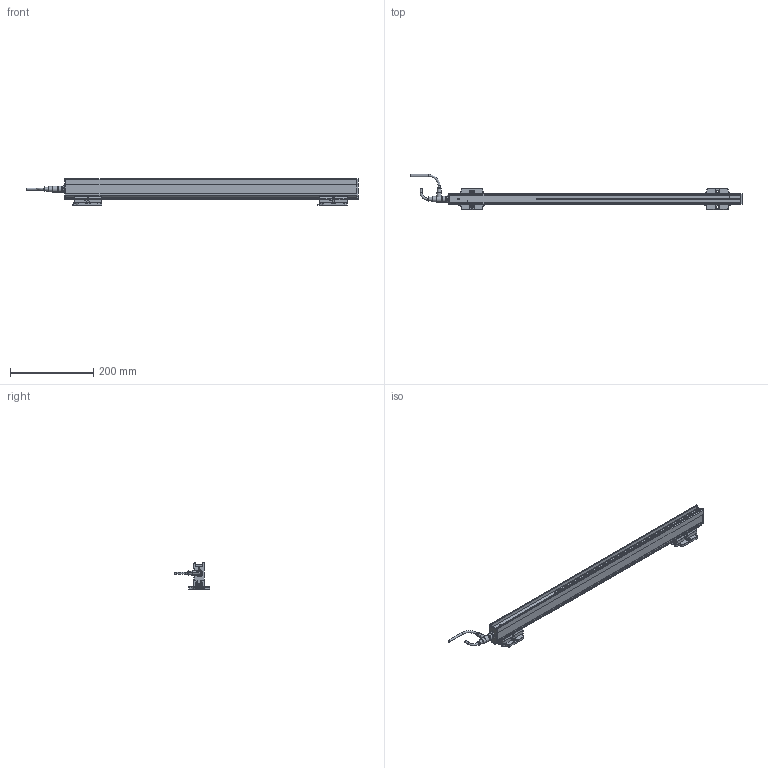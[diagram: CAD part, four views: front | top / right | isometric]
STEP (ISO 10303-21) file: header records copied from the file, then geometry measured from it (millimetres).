
FILE_DESCRIPTION(('Bauteilbeschreibung','HiCAD-Model','HiCAD-STEP-TRANSLATION','Bauteilbeschreibung'),'2;1');
FILE_NAME('PERFORMAXIQEASY_630-720_3D.STP','2014-03-05T11:25:40+00:00',('Konstrukteur'),('Konstrukteur Firma GmbH'),' HiCAD 2011, Step 1600.0 ','HiCAD 2011','confidential');
FILE_SCHEMA(('AUTOMOTIVE_DESIGN { 1 2 10303 214 0 1 1 1 }'));
Products named in the file (38): PERFORMAXIQEASY_630_720_3D; A_PERFORMAX IQ EASY 630_720; A_PERFORMAX IQ EASY SPEED; A_CAP DE; A_CAP CE_5; GROUP; PIN; GROUP0; PIN0; LED_2C_3MM; LED02C03MM; A519020315_CONNECTOR APPLIANCE; A_INSERT; A_CONTACTS; A_HOUSING; A_PROFILE; A_POTTING; A532000100_BRACKET BARS_ MOUNT; A_SIDE PIECE; A0SIDE0PIECE; A_BRACKET SMALL; A_SLIDE PIECE; A5320001000BRACKET0BARS00MOUNT; A0SIDE0PIECE0; A0SIDE0PIECE1; A0BRACKET0SMALL; A0SLIDE0PIECE; A_CONNECTOR STRAIGHT; EXTRUDED SOLID_0; DRAAD GEBOGEN; REVOLVED SOLID_1; REVOLVED SOLID_3; A_CONNECTOR ANGLED; REVOLVED0SOLID01; EXTRUDED0SOLID00; C_EDGE SWEEP_0; REVOLVED SOLID_2; REVOLVED0SOLID03
Assembly tree (37 placements, depth 5):
  PERFORMAXIQEASY_630_720_3D
    A_PERFORMAX IQ EASY 630_720
      A_PERFORMAX IQ EASY SPEED
        A_CAP DE
        A_CAP CE_5
        GROUP
          PIN
        GROUP0
          PIN0
        LED_2C_3MM
        LED02C03MM
        A519020315_CONNECTOR APPLIANCE
          A_INSERT
          A_CONTACTS
          A_HOUSING
        A_PROFILE
        A_POTTING
      A532000100_BRACKET BARS_ MOUNT
        A_SIDE PIECE
        A0SIDE0PIECE
        A_BRACKET SMALL
        A_SLIDE PIECE
      A5320001000BRACKET0BARS00MOUNT
        A0SIDE0PIECE0
        A0SIDE0PIECE1
        A0BRACKET0SMALL
        A0SLIDE0PIECE
      A_CONNECTOR STRAIGHT
        EXTRUDED SOLID_0
        DRAAD GEBOGEN
        REVOLVED SOLID_1
        REVOLVED SOLID_3
      A_CONNECTOR ANGLED
        REVOLVED0SOLID01
        EXTRUDED0SOLID00
        C_EDGE SWEEP_0
        REVOLVED SOLID_2
        REVOLVED0SOLID03
Bounding box: 797.89 x 84.28 x 63.13 mm (x, y, z)
Volume: 763078.2 mm3; surface area: 210184.5 mm2
Topology: 33 solids, 33 shells, 1911 faces, 4879 edges, 2932 vertices
Faces by surface type: cylinder 777, plane 751, sphere 112, torus 111, bspline 88, cone 72
Full cylindrical faces by diameter (mm): 0.8 x10, 1 x5, 2.387 x4, 3 x11, 3.1 x1, 4.2 x2, 5 x4, 5.5 x10, 8 x2, 8.2 x1, 8.4 x2, 8.945 x1, 9 x2, 10.2 x1, 10.5 x3, 11 x1, 12 x3, 12.8 x1, 13.8 x4, 14.5 x3
Entity records: 87383 total; most frequent: CARTESIAN_POINT 19760, DIRECTION 9521, ORIENTED_EDGE 9176, EDGE_CURVE 4588, COLOUR_RGB 4377, PRESENTATION_STYLE_ASSIGNMENT 4377, OVER_RIDING_STYLED_ITEM 4349, CURVE_STYLE 4344
